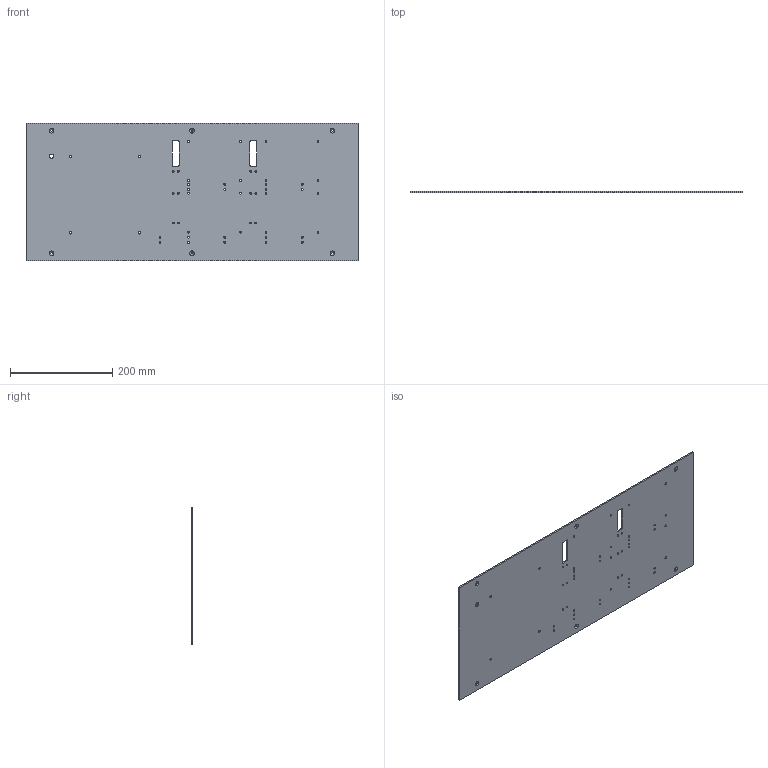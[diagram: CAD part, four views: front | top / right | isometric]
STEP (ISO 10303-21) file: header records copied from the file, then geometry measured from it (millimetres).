
FILE_DESCRIPTION(/* description */ ('base_back_plate'),/* implementation_level */ '2;1');
FILE_NAME(/* name */ '01_base_back_plate_x1.step',/* time_stamp */ '2026-10-27T16:17:50+01:00',/* author */ (''),/* organization */ (''),/* preprocessor_version */ 'ST-DEVELOPER v20.2',/* originating_system */ 'Autodesk Translation Framework v15.17.0.0',/* authorisation */ '');
FILE_SCHEMA (('AUTOMOTIVE_DESIGN { 1 0 10303 214 3 1 1 }','MODEL_BASED_INTEGRATED_MANUFACTURING_SCHEMA','PROCESS_PLANNING_SCHEMA'));
Length unit declared in the file: millimetre
Products named in the file (1): 2026-10-27-16-17-50-487
Bounding box: 650 x 3 x 270 mm (x, y, z)
Volume: 519940.7 mm3; surface area: 355127.4 mm2
Topology: 1 solids, 1 shells, 101 faces, 297 edges, 198 vertices
Faces by surface type: cylinder 65, cone 22, plane 14
Full cylindrical faces by diameter (mm): 3.4 x46, 4.5 x10, 8 x1
Entity records: 3741 total; most frequent: DIRECTION 675, CARTESIAN_POINT 597, ORIENTED_EDGE 594, EDGE_CURVE 297, AXIS2_PLACEMENT_3D 276, EDGE_LOOP 219, VERTEX_POINT 198, CIRCLE 174
